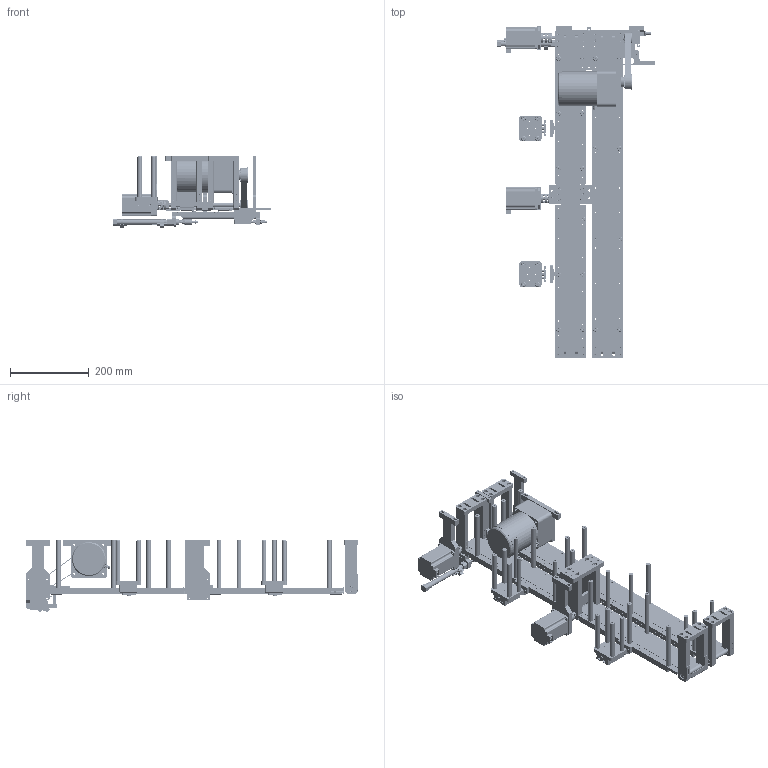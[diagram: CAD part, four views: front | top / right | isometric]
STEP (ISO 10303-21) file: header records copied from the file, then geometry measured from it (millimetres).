
FILE_DESCRIPTION(/* description */ (''),/* implementation_level */ '2;1');
FILE_NAME(/* name */ 'beltconveyor_a093_w50_l1600.stp',/* time_stamp */ '2025-01-03T22:19:49+08:00',/* author */ (''),/* organization */ (''),/* preprocessor_version */ 'ST-DEVELOPER v16.7',/* originating_system */ 'SIEMENS PLM Software NX 12.0',/* authorisation */ '');
FILE_SCHEMA (('AUTOMOTIVE_DESIGN { 1 0 10303 214 3 1 1 1 }'));
Products named in the file (65): ACA-0806-1_NT; ACA-0806-1_Body; TN10-10_fp; TN10-10 - 10_b; MI 12x100-S-U_c; MI12-M6x1 - Nut; MI12-M16x1_5 - Nut; CS1-M-S12; MI 12x100-S-U_r; 回形传送线008; EBF41-S3M150-36-B-C-d12; 回形传送线007; 回形传送线015; EBF41-S3M150-26-A-P-d8; 回形传送线006; 回形传送线017; S5M-000; BAF675ZZ-SUS1; 回形传送线012; HIWIN滑块MGN7-15滑块_MGN12H滑块; 回形传送线039; 回形传送线016; 回形传送线037; 回形传送线001; 回形传送线027; 回形传送线036; 回形传送线026; 回形传送线032; 回形传送线018; F-M6X100F; 回形传送线021; 回形传送线009; 回形传送线011; 回形传送线013; 回形传送线025; 回形传送线003; 回形传送线028; 回形传送线031; 回形传送线030; hexagon socket countersunk head screws gb_GB_FASTENER_SCREWS_HSCHS M3
X8-N ...
Assembly tree (159 placements, depth 3):
  beltconveyor_a093_w50_l1600
    BAY6800ZZ-J-SUS  x12
    回形传送线019
    回形传送线038  x4
    回形传送线005  x2
    HIWIN线轨(MGN7-15)_MGN12导轨
    回形传送线020
    DBA61-D25-d8-e8  x2
    回形传送线023  x3
    回形传送线033
    回形传送线024  x3
    B506-003  x15
    回形传送线022  x8
    回形传送线0002  x20
    回形传送线014
    回形传送线029  x2
    回形传送线035
    5IK40GN-C-5GN3S0No3
    57CM23(雷赛步进电机)  x2
    回形传送线034  x4
    回形传送线010  x2
    回形传送线004  x8
    hexagon socket countersunk head screws gb_GB_FASTENER_SCREWS_HSCHS M3
X8-N  x2
    回形传送线030  x2
    回形传送线031  x2
    回形传送线028  x2
    回形传送线003  x8
    回形传送线025
    MI12x100SU(0)+(CMSG-2)
      MI 12x100-S-U_r
      CS1-M-S12  x2
      MI12-M16x1_5 - Nut
      MI12-M6x1 - Nut
      MI 12x100-S-U_c
    回形传送线013  x2
    回形传送线011  x2
    回形传送线009
    回形传送线021  x2
    TN10X10S(0)+()  x2
      TN10-10 - 10_b
      TN10-10_fp
    F-M6X100F
    回形传送线018
    回形传送线032
    回形传送线026
    回形传送线036
    回形传送线027
    回形传送线001
    回形传送线037  x2
    回形传送线016  x2
    回形传送线039
    HIWIN滑块MGN7-15滑块_MGN12H滑块
    ACA0806-1  x2
      ACA-0806-1_Body
      ACA-0806-1_NT
    回形传送线012  x2
    BAF675ZZ-SUS1  x2
    S5M-000
    回形传送线017
    回形传送线006
Bounding box: 402.25 x 843.5 x 185.15 mm (x, y, z)
Volume: 4714292.1 mm3; surface area: 1585662.2 mm2
Topology: 208 solids, 210 shells, 12839 faces, 33307 edges, 21237 vertices
Faces by surface type: plane 5464, cylinder 3929, cone 1521, bspline 750, torus 683, extrusion 492
Entity records: 141995 total; most frequent: CARTESIAN_POINT 33143, DIRECTION 22200, ORIENTED_EDGE 21760, EDGE_CURVE 10880, AXIS2_PLACEMENT_3D 8281, VERTEX_POINT 7085, VECTOR 5638, LINE 5392
